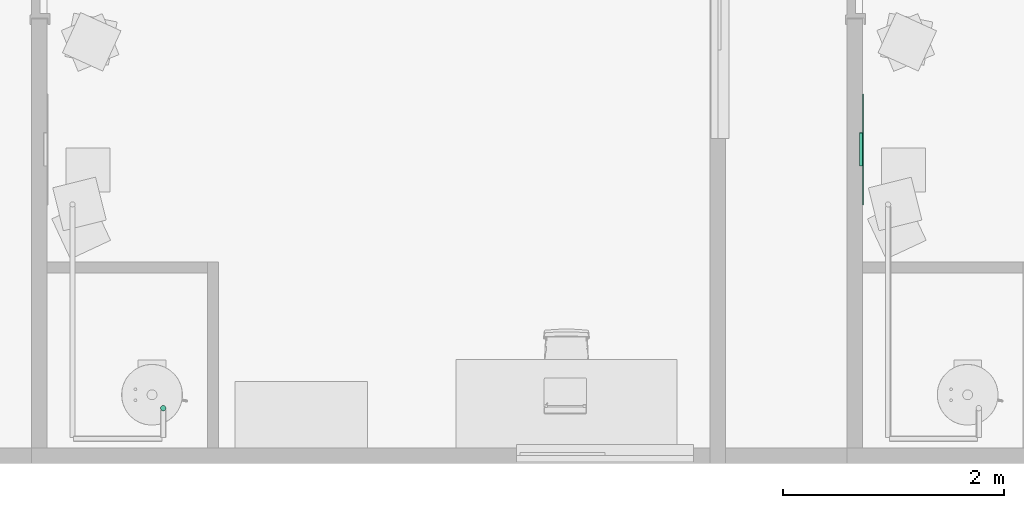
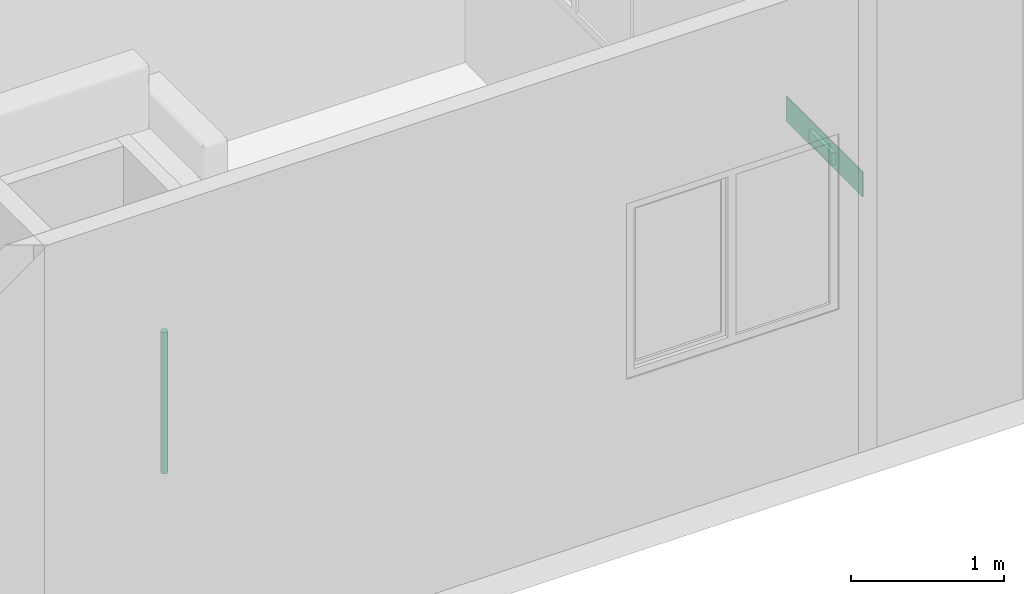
# One storey, part 21 of 71: 1 air terminal, 1 pipe segment.
"""IFC4 building model written with IfcOpenShell, lengths in centimetres."""

from ifc_helpers import new_model, entity, si_unit, converted_unit, derived_unit, direction, frame, origin, place, context, subcontext, project, spatial, arc, indexed_curve, outline, extrude, source, transform, mapped, material, constituent, constituent_set, type_object, type_shapes, element, save


model = new_model("IFC4")

# Units and contexts
model_context = context("Model", 3, precision=0.001, world=origin(), true_north=direction((6.123233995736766e-17, 1.0)))
body_context = subcontext(model_context, "Body", "Model", "MODEL_VIEW")
ifc_project = project(units=[si_unit("LENGTHUNIT", "METRE", prefix="CENTI"), si_unit("AREAUNIT", "SQUARE_METRE"), si_unit("VOLUMEUNIT", "CUBIC_METRE"), derived_unit("THERMALTRANSMITTANCEUNIT", [(si_unit("MASSUNIT", "GRAM", prefix="KILO"), 1), (si_unit("THERMODYNAMICTEMPERATUREUNIT", "KELVIN"), -1), (si_unit("TIMEUNIT", "SECOND"), -3)]), converted_unit("PLANEANGLEUNIT", "DEGREE", entity("IfcPlaneAngleMeasure", 0.017453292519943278), si_unit("PLANEANGLEUNIT", "RADIAN"), dimensions=[0, 0, 0, 0, 0, 0, 0]), derived_unit("MASSDENSITYUNIT", [(si_unit("MASSUNIT", "GRAM", prefix="KILO"), 1), (si_unit("LENGTHUNIT", "METRE"), -3)]), derived_unit("VAPORPERMEABILITYUNIT", [(si_unit("LENGTHUNIT", "METRE"), -1), (si_unit("TIMEUNIT", "SECOND"), 1)]), derived_unit("USERDEFINED", [(si_unit("MASSUNIT", "GRAM", prefix="KILO"), 1), (si_unit("TIMEUNIT", "SECOND"), -3), (si_unit("LENGTHUNIT", "METRE"), 3), (si_unit("ELECTRICCURRENTUNIT", "AMPERE"), -2)]), derived_unit("SPECIFICHEATCAPACITYUNIT", [(si_unit("THERMODYNAMICTEMPERATUREUNIT", "KELVIN"), -1), (si_unit("LENGTHUNIT", "METRE"), 2), (si_unit("TIMEUNIT", "SECOND"), -2)]), derived_unit("THERMALCONDUCTANCEUNIT", [(si_unit("MASSUNIT", "GRAM", prefix="KILO"), 1), (si_unit("THERMODYNAMICTEMPERATUREUNIT", "KELVIN"), -1), (si_unit("TIMEUNIT", "SECOND"), -3), (si_unit("LENGTHUNIT", "METRE"), 1)]), si_unit("PRESSUREUNIT", "PASCAL"), derived_unit("MODULUSOFELASTICITYUNIT", [(si_unit("MASSUNIT", "GRAM", prefix="KILO"), 1), (si_unit("LENGTHUNIT", "METRE"), -1), (si_unit("TIMEUNIT", "SECOND"), -2)]), derived_unit("THERMALEXPANSIONCOEFFICIENTUNIT", [(si_unit("THERMODYNAMICTEMPERATUREUNIT", "KELVIN"), -1)])], contexts=[model_context])

# Site, building, storey, space
site_placement = place(None, origin())
site = spatial("IfcSite", under=ifc_project, at=site_placement, Name="Default", CompositionType="ELEMENT")
building_placement = place(site_placement, origin())
building = spatial("IfcBuilding", under=site, at=building_placement, Name="IDS Escape Game Building", CompositionType="ELEMENT")
storey_placement = place(building_placement, frame((0.0, 0.0, 400.0)))
storey = spatial("IfcBuildingStorey", under=building, at=storey_placement, Name="01_First Floor", CompositionType="ELEMENT", Elevation=399.99999999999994)
space_placement = place(storey_placement, origin())
space = spatial("IfcSpace", under=storey, at=space_placement, Name="40", CompositionType="ELEMENT", PredefinedType="NOTDEFINED")

# Air terminal
ifc_material_1 = material(Name="TB_LVC_referentievlak_00_gen_BERSnl", Category="BE Default")
ifc_constituent_1 = constituent(ifc_material_1, Name="TB_LVC_referentievlak_00_gen_BERSnl", Category="BE Default", fraction=0.00014157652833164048)
ifc_material_2 = material(Name="ARC_FME.h2_staal_00_gen_BERSnl", Category="h - metaal")
ifc_constituent_2 = constituent(ifc_material_2, Name="ARC_FME.h2_staal_00_gen_BERSnl", Category="h - metaal", fraction=0.9998584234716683)
ifc_constituent_set_1 = constituent_set(constituents=[ifc_constituent_1, ifc_constituent_2])
ifc_constituent_3 = constituent(ifc_material_1, Name="BE Referentievlak", Category="BE Default", fraction=0.00014157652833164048)
ifc_constituent_4 = constituent(ifc_material_2, Name="Terminals", Category="h - metaal", fraction=0.9998584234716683)
ifc_constituent_set_2 = constituent_set(constituents=[ifc_constituent_3, ifc_constituent_4])
air_terminal_type = type_object("IfcAirTerminalType", Name="TB_57_AIR_FB_aanzuigrooster - 1 rechthoekige aansluiting - calculated flow_gen_BERSnl:Air Terminal - Exhaust", PredefinedType="GRILLE", material=ifc_constituent_set_2)
shared_shape = source(origin(), body_context, "Body", "SweptSolid", [
    extrude(outline(indexed_curve([(-0.5, -2.0290176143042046e-15), (6.8507733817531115e-16, -0.5000000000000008), (0.5, 2.0290176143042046e-15), (-5.361679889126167e-16, 0.49999999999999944)], segments=[arc(1, 2, 3), arc(3, 4, 1)], self_intersect=False)), frame((0.0, 0.0, 0.0), z_axis=(1.7453292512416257e-05, 0.0, 1.0), x_axis=(0.0, 1.0, 0.0)), (0.0, 0.0, 1.0), 0.09999999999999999),
    extrude(outline(indexed_curve([(-14.900000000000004, -4.9), (14.900000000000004, -4.9), (14.900000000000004, 4.9), (-14.900000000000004, 4.9), (-14.900000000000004, -4.9)], self_intersect=False)), frame((-4.886921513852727e-05, 0.0, -2.7999999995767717)), (0.0, 0.0, 1.0), 2.7999999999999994),
    extrude(outline(indexed_curve([(-50.0, -10.0), (50.0, -10.0), (50.0, 10.0), (-50.0, 10.0), (-50.0, -10.0)], self_intersect=False)), frame((0.0, 0.0, 0.0), z_axis=(0.0, 0.0, 1.0), x_axis=(-1.0, 0.0, 0.0)), (0.0, 0.0, 1.0), 0.6999999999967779),
])
type_shapes(air_terminal_type, [shared_shape])
air_terminal_placement = place(space_placement, frame((2959.0, 283.0, 24.0), z_axis=(1.0, 0.0, 0.0), x_axis=(0.0, 1.0, 0.0)))
element("IfcAirTerminal", 1, at=air_terminal_placement, inside=space, type_object=air_terminal_type, material=ifc_constituent_set_1, Name="TB_57_AIR_FB_aanzuigrooster - 1 rechthoekige aansluiting - calculated flow_gen_BERSnl:Air Terminal - Exhaust", ObjectType="TB_57_AIR_FB_aanzuigrooster - 1 rechthoekige aansluiting - calculated flow_gen_BERSnl:Air Terminal - Exhaust", PredefinedType="GRILLE", context=body_context, shape_type="MappedRepresentation", body=[
    mapped(shared_shape, transform((0.0, 0.0, 0.0), scale=1.0)),
])

# Pipe segment
pipe_segment_type = type_object("IfcPipeSegmentType", Name="Pipe Types:Piping Aluminum", PredefinedType="NOTDEFINED")
pipe_segment_placement = place(storey_placement, origin())
element("IfcPipeSegment", 2, at=pipe_segment_placement, inside=storey, type_object=pipe_segment_type, Name="Pipe Types:Piping Aluminum", ObjectType="Pipe Types:Piping Aluminum", PredefinedType="NOTDEFINED", context=body_context, shape_type="SweptSolid", body=[
    extrude(outline(indexed_curve([(2.412999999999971, 0.0), (1.7062486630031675, 1.7062486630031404), (0.0, 2.412999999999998), (-1.7062486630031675, 1.7062486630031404), (-2.412999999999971, 6.767919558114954e-15), (-1.7062486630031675, -1.7062486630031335), (0.0, -2.412999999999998), (1.7062486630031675, -1.706248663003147)], segments=[arc(1, 2, 3), arc(3, 4, 5), arc(5, 6, 7), arc(7, 8, 1)], self_intersect=False)), frame((2326.150000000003, 48.90000000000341, 128.0), z_axis=(0.0, 0.0, 1.0), x_axis=(-1.0, 0.0, 0.0)), (0.0, 0.0, 1.0), 112.90000000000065),
])

save(model, "model.ifc")
